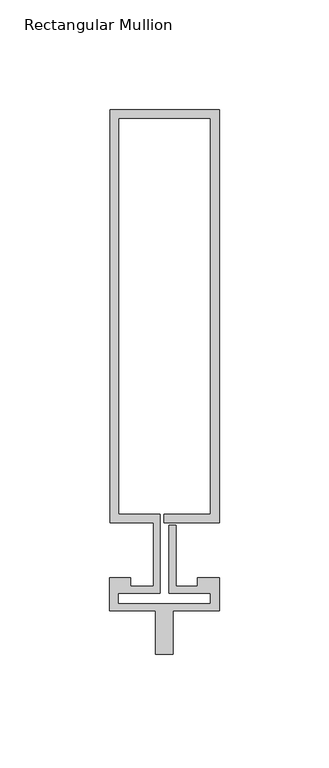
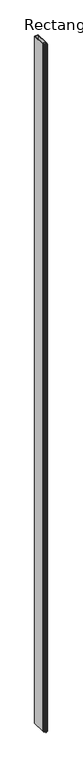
"""IFC4 building model written with IfcOpenShell, lengths in millimetres: member geometry, Rectangular Mullion : Reynaers_CW-50_Mullion-Transom_Vertical_188.5mm_Facecap-06A."""

from ifc_helpers import new_model, si_unit, frame, origin, place, context, project, spatial, polyline, outline, extrude, source, transform, mapped, element, save


def rectangular_mullion_7ff22dc9(model_context):
    return source(origin(), model_context, "Body", "SweptSolid", [
        extrude(outline(polyline([(-24.8004059, 201.0), (25.1995941, 201.0), (25.1995941, 12.5), (0.0, 12.5), (0.0, 16.5), (21.1995941, 16.5), (21.1995941, 197.0), (-20.8004059, 197.0), (-20.8004059, 16.5), (-1.9004059, 16.5), (-1.9004059, -19.5), (-20.994845, -19.5), (-20.994845, -24.4191338), (21.1995941, -24.4191338), (21.1995941, -19.5), (2.2995941, -19.5), (2.2995941, 11.5), (5.2995941, 11.5), (5.2995941, -16.5), (15.2996495, -16.5), (15.2996495, -12.5), (25.1995941, -12.5), (25.1995941, -27.5), (4.004855, -27.5), (4.004855, -47.5), (-3.995145, -47.5), (-3.995145, -27.5), (-24.994845, -27.5), (-24.994845, -12.5), (-15.2996495, -12.5), (-15.2996495, -16.5), (-4.9004059, -16.5), (-4.9004059, 12.5), (-24.8004059, 12.5), (-24.8004059, 201.0)])), frame((0.0, 0.0, -10400.0), z_axis=(0.0, 0.0, 1.0), x_axis=(1.0, 0.0, 0.0)), (0.0, 0.0, 1.0), 10400.0),
    ])


if __name__ == "__main__":
    model = new_model("IFC4")
    model_context = context("Model", 3, world=origin())
    ifc_project = project(units=[si_unit("LENGTHUNIT", "METRE", prefix="MILLI")], contexts=[model_context])
    site = spatial("IfcSite", under=ifc_project)
    building = spatial("IfcBuilding", under=site)
    placement = place(None, origin())
    rectangular_mullion_shape = rectangular_mullion_7ff22dc9(model_context)
    element("IfcMember", 1, ObjectType="Rectangular Mullion : Reynaers_CW-50_Mullion-Transom_Vertical_188.5mm_Facecap-06A", at=placement, inside=building, context=model_context, shape_type="MappedRepresentation", body=[
        mapped(rectangular_mullion_shape, transform((0.0, 0.0, 0.0), x_axis=(1.0, 0.0, 0.0), y_axis=(0.0, 1.0, 0.0), z_axis=(0.0, 0.0, 1.0))),
    ])
    save(model, "model.ifc")
